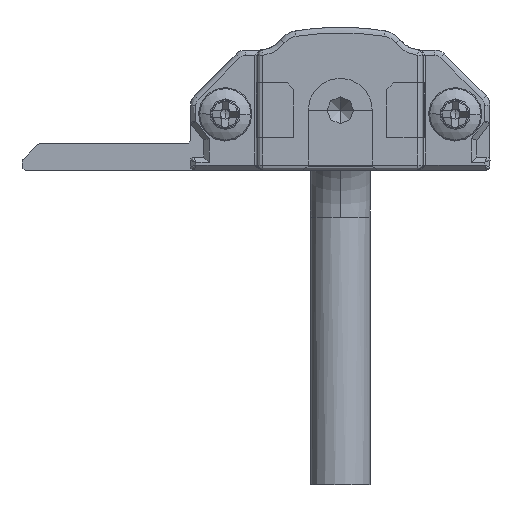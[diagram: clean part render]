
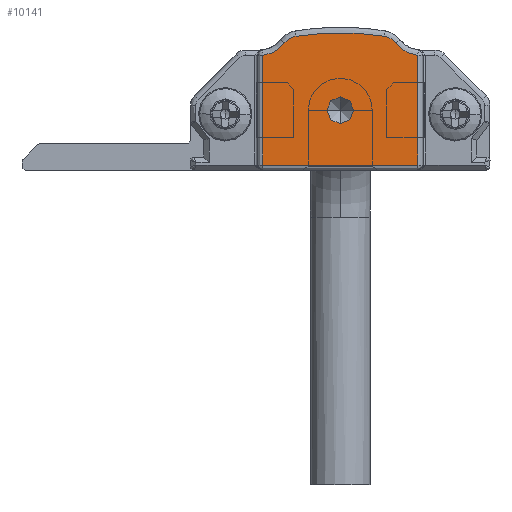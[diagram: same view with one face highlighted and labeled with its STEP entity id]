
A CAD part, front view. The second image highlights one B-rep face of the part: STEP entity #10141.
In plain terms, the highlighted planar face has unit normal (0, -1, 0).
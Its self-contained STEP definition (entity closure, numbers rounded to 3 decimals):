
#1000 = AXIS2_PLACEMENT_3D ( 'NONE', #18783, #6643, #26570 ) ;
#2211 = ORIENTED_EDGE ( 'NONE', *, *, #17254, .T. ) ;
#2274 = DIRECTION ( 'NONE',  ( 0., 1., 0. ) ) ;
#2559 = DIRECTION ( 'NONE',  ( 0., 0., -1. ) ) ;
#2938 = AXIS2_PLACEMENT_3D ( 'NONE', #12626, #19963, #2559 ) ;
#2966 = CARTESIAN_POINT ( 'NONE',  ( 15.332, -15., 9.541 ) ) ;
#3073 = VERTEX_POINT ( 'NONE', #6233 ) ;
#3201 = AXIS2_PLACEMENT_3D ( 'NONE', #29033, #19170, #24067 ) ;
#3389 = ORIENTED_EDGE ( 'NONE', *, *, #27185, .T. ) ;
#3446 = CARTESIAN_POINT ( 'NONE',  ( 11.2, -15., 4.5 ) ) ;
#4183 = ORIENTED_EDGE ( 'NONE', *, *, #9637, .T. ) ;
#5099 = DIRECTION ( 'NONE',  ( 0., 0., -1. ) ) ;
#5898 = EDGE_LOOP ( 'NONE', ( #6524, #30412 ) ) ;
#6233 = CARTESIAN_POINT ( 'NONE',  ( 7.892, -15., 10.034 ) ) ;
#6484 = CIRCLE ( 'NONE', #12057, 1.3 ) ;
#6524 = ORIENTED_EDGE ( 'NONE', *, *, #19987, .F. ) ;
#6525 = LINE ( 'NONE', #30292, #29759 ) ;
#6643 = DIRECTION ( 'NONE',  ( 0., 1., 0. ) ) ;
#6680 = CARTESIAN_POINT ( 'NONE',  ( 17., -15., 0.4 ) ) ;
#6904 = FACE_OUTER_BOUND ( 'NONE', #21952, .T. ) ;
#7369 = ORIENTED_EDGE ( 'NONE', *, *, #22634, .T. ) ;
#7502 = VERTEX_POINT ( 'NONE', #2966 ) ;
#7587 = CARTESIAN_POINT ( 'NONE',  ( 17., -15., 8.612 ) ) ;
#8913 = CARTESIAN_POINT ( 'NONE',  ( 7.068, -15., 9.541 ) ) ;
#9153 = DIRECTION ( 'NONE',  ( 0., 0., -1. ) ) ;
#9637 = EDGE_CURVE ( 'NONE', #29177, #19250, #18683, .T. ) ;
#9804 = ORIENTED_EDGE ( 'NONE', *, *, #15157, .T. ) ;
#9962 = ORIENTED_EDGE ( 'NONE', *, *, #18927, .T. ) ;
#10088 = CIRCLE ( 'NONE', #2938, 1. ) ;
#10141 = ADVANCED_FACE ( 'NONE', ( #6904, #24092 ), #11980, .T. ) ;
#10770 = AXIS2_PLACEMENT_3D ( 'NONE', #28904, #23933, #9153 ) ;
#10925 = VERTEX_POINT ( 'NONE', #8913 ) ;
#11472 = VECTOR ( 'NONE', #28541, 1000. ) ;
#11980 = PLANE ( 'NONE',  #10770 ) ;
#12057 = AXIS2_PLACEMENT_3D ( 'NONE', #25164, #17862, #23262 ) ;
#12626 = CARTESIAN_POINT ( 'NONE',  ( 11.2, -15., 4.5 ) ) ;
#12975 = CARTESIAN_POINT ( 'NONE',  ( 11.2, -15., 5.5 ) ) ;
#15157 = EDGE_CURVE ( 'NONE', #29701, #3073, #19659, .T. ) ;
#15163 = VERTEX_POINT ( 'NONE', #29193 ) ;
#15483 = CARTESIAN_POINT ( 'NONE',  ( 5.4, -15., 0.4 ) ) ;
#15784 = VERTEX_POINT ( 'NONE', #7587 ) ;
#16095 = ORIENTED_EDGE ( 'NONE', *, *, #29611, .T. ) ;
#16555 = CARTESIAN_POINT ( 'NONE',  ( 14.508, -15., 10.034 ) ) ;
#17254 = EDGE_CURVE ( 'NONE', #15784, #7502, #28713, .T. ) ;
#17862 = DIRECTION ( 'NONE',  ( 0., -1., 0. ) ) ;
#18452 = DIRECTION ( 'NONE',  ( 0., -1., 0. ) ) ;
#18489 = DIRECTION ( 'NONE',  ( 0., 0., -1. ) ) ;
#18683 = LINE ( 'NONE', #6680, #11472 ) ;
#18783 = CARTESIAN_POINT ( 'NONE',  ( 5.162, -15., 11. ) ) ;
#18927 = EDGE_CURVE ( 'NONE', #7502, #29701, #6484, .T. ) ;
#19044 = CIRCLE ( 'NONE', #3201, 1.3 ) ;
#19170 = DIRECTION ( 'NONE',  ( 0., -1., 0. ) ) ;
#19250 = VERTEX_POINT ( 'NONE', #30422 ) ;
#19659 = CIRCLE ( 'NONE', #22696, 20.676 ) ;
#19926 = CARTESIAN_POINT ( 'NONE',  ( 11.2, -15., -10.376 ) ) ;
#19963 = DIRECTION ( 'NONE',  ( 0., -1., 0. ) ) ;
#19987 = EDGE_CURVE ( 'NONE', #22449, #26690, #26913, .T. ) ;
#20339 = DIRECTION ( 'NONE',  ( 0., 0., 1. ) ) ;
#20352 = EDGE_CURVE ( 'NONE', #26690, #22449, #10088, .T. ) ;
#21174 = CARTESIAN_POINT ( 'NONE',  ( 11.2, -15., 3.5 ) ) ;
#21819 = EDGE_CURVE ( 'NONE', #10925, #15163, #24956, .T. ) ;
#21952 = EDGE_LOOP ( 'NONE', ( #7369, #2211, #9962, #9804, #3389, #23295, #16095, #4183 ) ) ;
#22449 = VERTEX_POINT ( 'NONE', #21174 ) ;
#22634 = EDGE_CURVE ( 'NONE', #19250, #15784, #29450, .T. ) ;
#22696 = AXIS2_PLACEMENT_3D ( 'NONE', #19926, #24864, #5099 ) ;
#23262 = DIRECTION ( 'NONE',  ( 0., 0., -1. ) ) ;
#23295 = ORIENTED_EDGE ( 'NONE', *, *, #21819, .T. ) ;
#23933 = DIRECTION ( 'NONE',  ( 0., -1., 0. ) ) ;
#24067 = DIRECTION ( 'NONE',  ( 0., 0., -1. ) ) ;
#24092 = FACE_BOUND ( 'NONE', #5898, .T. ) ;
#24132 = CARTESIAN_POINT ( 'NONE',  ( 17.238, -15., 11. ) ) ;
#24864 = DIRECTION ( 'NONE',  ( 0., -1., 0. ) ) ;
#24956 = CIRCLE ( 'NONE', #1000, 2.4 ) ;
#25164 = CARTESIAN_POINT ( 'NONE',  ( 14.3, -15., 8.75 ) ) ;
#25448 = DIRECTION ( 'NONE',  ( 0., 0., -1. ) ) ;
#26570 = DIRECTION ( 'NONE',  ( 0., 0., -1. ) ) ;
#26690 = VERTEX_POINT ( 'NONE', #12975 ) ;
#26913 = CIRCLE ( 'NONE', #30988, 1. ) ;
#27036 = CARTESIAN_POINT ( 'NONE',  ( 17., -15., 8.612 ) ) ;
#27185 = EDGE_CURVE ( 'NONE', #3073, #10925, #19044, .T. ) ;
#27796 = VECTOR ( 'NONE', #20339, 1000. ) ;
#28541 = DIRECTION ( 'NONE',  ( 1., 0., 0. ) ) ;
#28713 = CIRCLE ( 'NONE', #30822, 2.4 ) ;
#28904 = CARTESIAN_POINT ( 'NONE',  ( 22.15, -15., 3.606 ) ) ;
#29033 = CARTESIAN_POINT ( 'NONE',  ( 8.1, -15., 8.75 ) ) ;
#29177 = VERTEX_POINT ( 'NONE', #15483 ) ;
#29193 = CARTESIAN_POINT ( 'NONE',  ( 5.4, -15., 8.612 ) ) ;
#29450 = LINE ( 'NONE', #27036, #27796 ) ;
#29611 = EDGE_CURVE ( 'NONE', #15163, #29177, #6525, .T. ) ;
#29701 = VERTEX_POINT ( 'NONE', #16555 ) ;
#29759 = VECTOR ( 'NONE', #18489, 1000. ) ;
#30292 = CARTESIAN_POINT ( 'NONE',  ( 5.4, -15., 0.4 ) ) ;
#30412 = ORIENTED_EDGE ( 'NONE', *, *, #20352, .F. ) ;
#30422 = CARTESIAN_POINT ( 'NONE',  ( 17., -15., 0.4 ) ) ;
#30822 = AXIS2_PLACEMENT_3D ( 'NONE', #24132, #2274, #31483 ) ;
#30988 = AXIS2_PLACEMENT_3D ( 'NONE', #3446, #18452, #25448 ) ;
#31483 = DIRECTION ( 'NONE',  ( 0., 0., -1. ) ) ;
